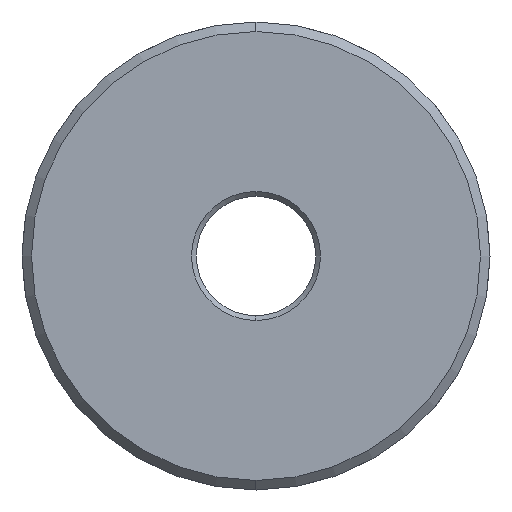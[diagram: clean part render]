
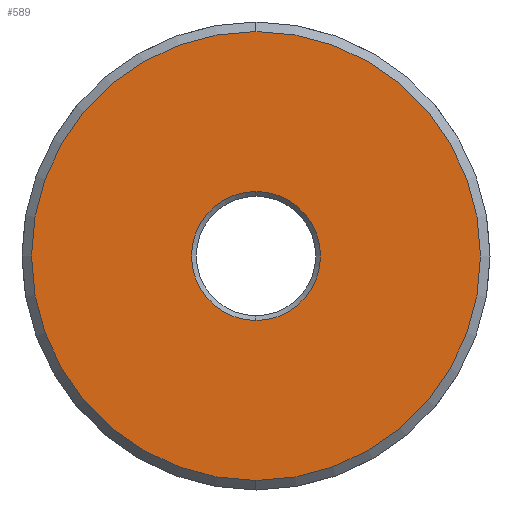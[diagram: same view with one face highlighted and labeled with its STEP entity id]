
A CAD part, left-side view. The second image highlights one B-rep face of the part: STEP entity #589.
In plain terms, the highlighted planar face has unit normal (-1, 0, 0).
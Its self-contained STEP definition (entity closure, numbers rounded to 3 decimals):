
#8 = ORIENTED_EDGE ( 'NONE', *, *, #462, .T. ) ;
#14 = AXIS2_PLACEMENT_3D ( 'NONE', #232, #331, #28 ) ;
#18 = EDGE_LOOP ( 'NONE', ( #8, #543 ) ) ;
#28 = DIRECTION ( 'NONE',  ( 0., 0., 1. ) ) ;
#46 = DIRECTION ( 'NONE',  ( 1., 0., 0. ) ) ;
#107 = FACE_BOUND ( 'NONE', #18, .T. ) ;
#115 = CARTESIAN_POINT ( 'NONE',  ( -82., 0., 0. ) ) ;
#143 = DIRECTION ( 'NONE',  ( 1., 0., 0. ) ) ;
#145 = VERTEX_POINT ( 'NONE', #501 ) ;
#157 = ORIENTED_EDGE ( 'NONE', *, *, #383, .F. ) ;
#165 = DIRECTION ( 'NONE',  ( 0., 0., -1. ) ) ;
#182 = CARTESIAN_POINT ( 'NONE',  ( -82., 0., 23.5 ) ) ;
#211 = DIRECTION ( 'NONE',  ( 0., 0., -1. ) ) ;
#221 = CIRCLE ( 'NONE', #581, 23.5 ) ;
#226 = CARTESIAN_POINT ( 'NONE',  ( -82., 0., -23.5 ) ) ;
#228 = VERTEX_POINT ( 'NONE', #182 ) ;
#232 = CARTESIAN_POINT ( 'NONE',  ( -82., 23.5, 0. ) ) ;
#255 = VERTEX_POINT ( 'NONE', #226 ) ;
#295 = EDGE_LOOP ( 'NONE', ( #157, #536 ) ) ;
#301 = CARTESIAN_POINT ( 'NONE',  ( -82., 0., 0. ) ) ;
#331 = DIRECTION ( 'NONE',  ( -1., 0., 0. ) ) ;
#365 = EDGE_CURVE ( 'NONE', #228, #255, #221, .T. ) ;
#376 = DIRECTION ( 'NONE',  ( 1., 0., 0. ) ) ;
#383 = EDGE_CURVE ( 'NONE', #255, #228, #453, .T. ) ;
#423 = AXIS2_PLACEMENT_3D ( 'NONE', #301, #46, #528 ) ;
#433 = PLANE ( 'NONE',  #14 ) ;
#439 = CIRCLE ( 'NONE', #423, 6.75 ) ;
#453 = CIRCLE ( 'NONE', #625, 23.5 ) ;
#462 = EDGE_CURVE ( 'NONE', #579, #145, #651, .T. ) ;
#470 = DIRECTION ( 'NONE',  ( 1., 0., 0. ) ) ;
#500 = CARTESIAN_POINT ( 'NONE',  ( -82., 0., 0. ) ) ;
#501 = CARTESIAN_POINT ( 'NONE',  ( -82., 0., -6.75 ) ) ;
#503 = FACE_OUTER_BOUND ( 'NONE', #295, .T. ) ;
#528 = DIRECTION ( 'NONE',  ( 0., 0., -1. ) ) ;
#536 = ORIENTED_EDGE ( 'NONE', *, *, #365, .F. ) ;
#543 = ORIENTED_EDGE ( 'NONE', *, *, #666, .T. ) ;
#565 = DIRECTION ( 'NONE',  ( 0., 0., -1. ) ) ;
#579 = VERTEX_POINT ( 'NONE', #654 ) ;
#581 = AXIS2_PLACEMENT_3D ( 'NONE', #500, #143, #565 ) ;
#589 = ADVANCED_FACE ( 'NONE', ( #107, #503 ), #433, .T. ) ;
#625 = AXIS2_PLACEMENT_3D ( 'NONE', #115, #470, #211 ) ;
#634 = CARTESIAN_POINT ( 'NONE',  ( -82., 0., 0. ) ) ;
#646 = AXIS2_PLACEMENT_3D ( 'NONE', #634, #376, #165 ) ;
#651 = CIRCLE ( 'NONE', #646, 6.75 ) ;
#654 = CARTESIAN_POINT ( 'NONE',  ( -82., 0., 6.75 ) ) ;
#666 = EDGE_CURVE ( 'NONE', #145, #579, #439, .T. ) ;
